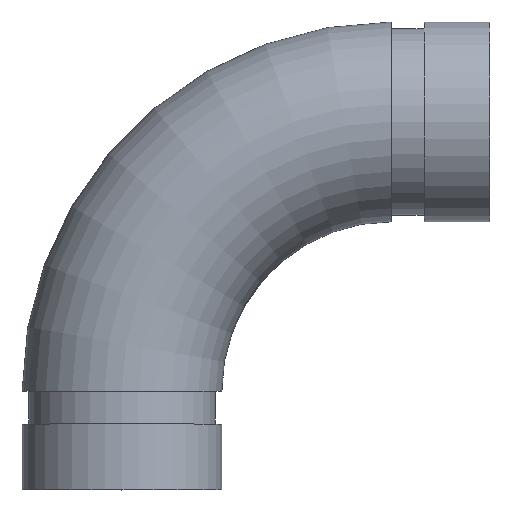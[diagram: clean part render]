
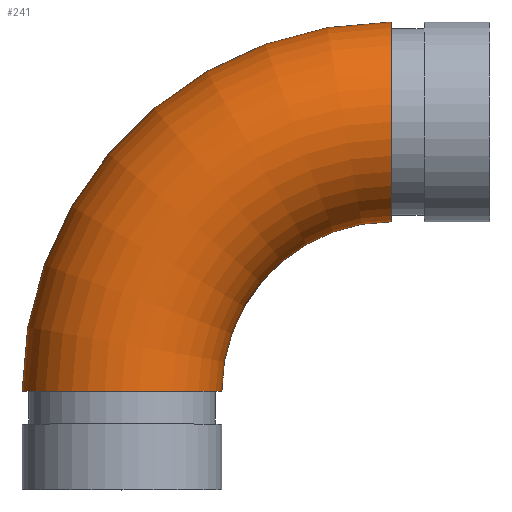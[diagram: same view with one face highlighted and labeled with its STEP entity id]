
A CAD part, top view. The second image highlights one B-rep face of the part: STEP entity #241.
In plain terms, the highlighted toroidal (fillet/blend) face has major radius 65.075 mm and minor radius 24.13 mm.
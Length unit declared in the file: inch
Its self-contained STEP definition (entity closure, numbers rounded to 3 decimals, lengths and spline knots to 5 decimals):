
#15=TOROIDAL_SURFACE('',#297,2.562,0.95);
#38=FACE_OUTER_BOUND('',#56,.T.);
#56=EDGE_LOOP('',(#195,#196,#197,#198,#199,#200));
#78=CIRCLE('',#271,0.95);
#79=CIRCLE('',#272,0.95);
#88=CIRCLE('',#285,0.95);
#89=CIRCLE('',#286,0.95);
#96=CIRCLE('',#298,1.612);
#102=VERTEX_POINT('',#399);
#103=VERTEX_POINT('',#400);
#112=VERTEX_POINT('',#424);
#113=VERTEX_POINT('',#425);
#125=EDGE_CURVE('',#102,#103,#78,.T.);
#126=EDGE_CURVE('',#103,#102,#79,.T.);
#136=EDGE_CURVE('',#112,#113,#88,.T.);
#137=EDGE_CURVE('',#113,#112,#89,.T.);
#147=EDGE_CURVE('',#103,#113,#96,.T.);
#195=ORIENTED_EDGE('',*,*,#125,.T.);
#196=ORIENTED_EDGE('',*,*,#147,.T.);
#197=ORIENTED_EDGE('',*,*,#136,.F.);
#198=ORIENTED_EDGE('',*,*,#137,.F.);
#199=ORIENTED_EDGE('',*,*,#147,.F.);
#200=ORIENTED_EDGE('',*,*,#126,.T.);
#241=ADVANCED_FACE('',(#38),#15,.T.);
#271=AXIS2_PLACEMENT_3D('',#401,#318,#319);
#272=AXIS2_PLACEMENT_3D('',#402,#320,#321);
#285=AXIS2_PLACEMENT_3D('',#426,#347,#348);
#286=AXIS2_PLACEMENT_3D('',#427,#349,#350);
#297=AXIS2_PLACEMENT_3D('',#446,#374,#375);
#298=AXIS2_PLACEMENT_3D('',#447,#376,#377);
#318=DIRECTION('center_axis',(0.,1.,0.));
#319=DIRECTION('ref_axis',(-1.,0.,0.));
#320=DIRECTION('center_axis',(0.,1.,0.));
#321=DIRECTION('ref_axis',(-1.,0.,0.));
#347=DIRECTION('center_axis',(1.,0.,0.));
#348=DIRECTION('ref_axis',(0.,1.,0.));
#349=DIRECTION('center_axis',(1.,0.,0.));
#350=DIRECTION('ref_axis',(0.,1.,0.));
#374=DIRECTION('center_axis',(0.,0.,1.));
#375=DIRECTION('ref_axis',(1.,0.,0.));
#376=DIRECTION('center_axis',(0.,0.,-1.));
#377=DIRECTION('ref_axis',(1.,0.,0.));
#399=CARTESIAN_POINT('',(0.,0.938,-0.95));
#400=CARTESIAN_POINT('',(0.95,0.938,0.));
#401=CARTESIAN_POINT('Origin',(0.,0.938,0.));
#402=CARTESIAN_POINT('Origin',(0.,0.938,0.));
#424=CARTESIAN_POINT('',(2.562,4.45,0.));
#425=CARTESIAN_POINT('',(2.562,2.55,0.));
#426=CARTESIAN_POINT('Origin',(2.562,3.5,0.));
#427=CARTESIAN_POINT('Origin',(2.562,3.5,0.));
#446=CARTESIAN_POINT('Origin',(2.562,0.938,0.));
#447=CARTESIAN_POINT('Origin',(2.562,0.938,0.));
